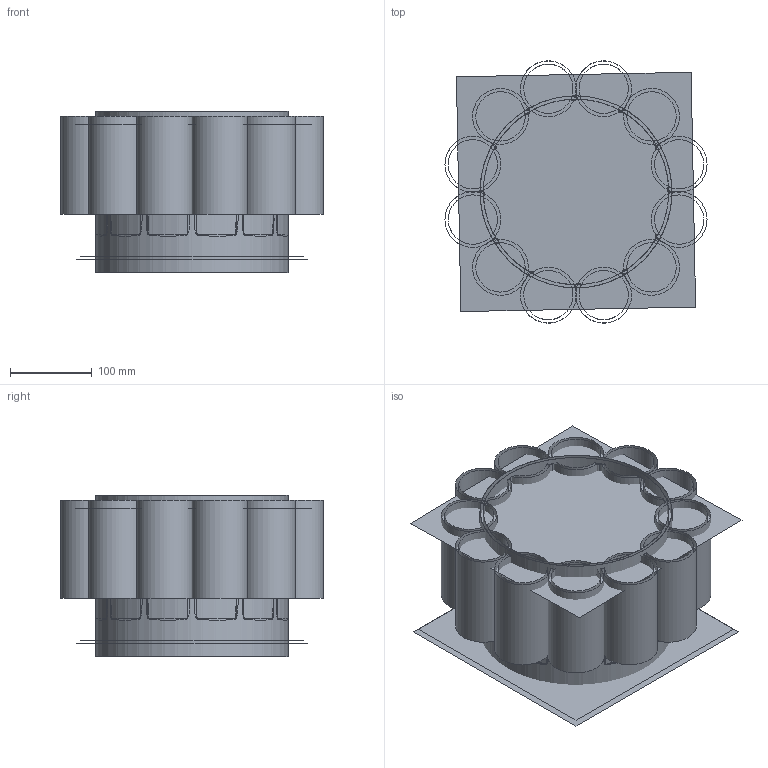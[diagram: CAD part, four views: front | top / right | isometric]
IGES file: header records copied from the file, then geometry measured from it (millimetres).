
Global section: file name: C:\Users\utente\Desktop\3d sito\BAMBU\BAMBU h 16.igs; native system: Rhinoceros ( Mar  9 2011 ); preprocessor: Trout Lake IGES 012 Mar  9 2011; date: 170517.145530; units: millimetre
Bounding box: 320.77 x 320.65 x 198 mm (x, y, z)
Surface area: 1751906.8 mm2 (no closed solid volume)
Topology: 0 solids, 0 shells, 90 faces, 384 edges, 404 vertices
Faces by surface type: bspline 90
